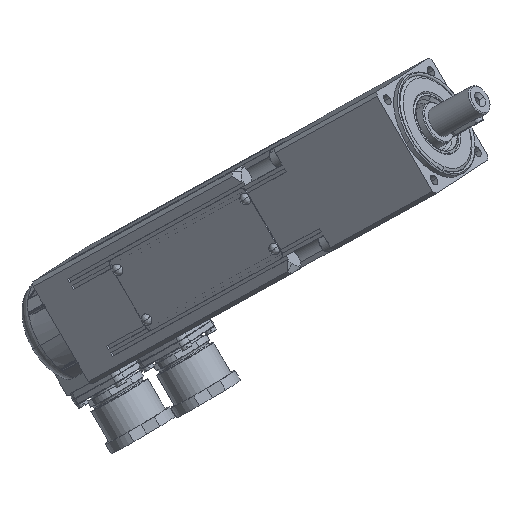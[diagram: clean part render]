
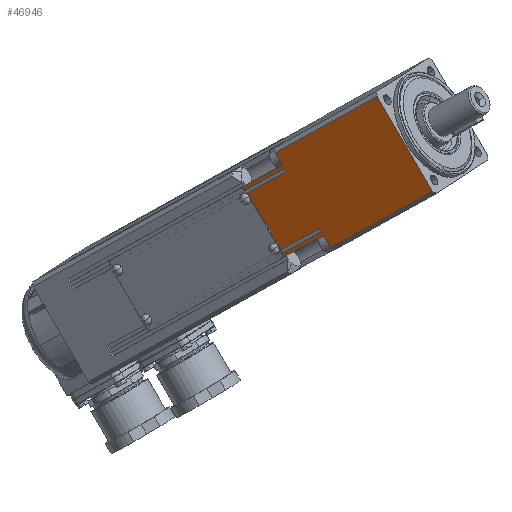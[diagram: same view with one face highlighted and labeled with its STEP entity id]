
A CAD part, front view. The second image highlights one B-rep face of the part: STEP entity #46946.
In plain terms, the highlighted planar face has unit normal (-0.468, -0.83, -0.304).
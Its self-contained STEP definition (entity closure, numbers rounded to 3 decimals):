
#12249=CARTESIAN_POINT('',(156.395,-270.97,431.372));
#12250=VERTEX_POINT('',#12249);
#12259=CARTESIAN_POINT('',(156.314,-271.291,432.371));
#12260=VERTEX_POINT('',#12259);
#12261=CARTESIAN_POINT('',(154.656,-270.228,432.025));
#12262=DIRECTION('',(0.468,0.829,0.304));
#12263=DIRECTION('',(0.869,-0.371,-0.327));
#12264=AXIS2_PLACEMENT_3D('',#12261,#12262,#12263);
#12265=CIRCLE('',#12264,2.);
#12266=EDGE_CURVE('',#12260,#12250,#12265,.T.);
#12302=CARTESIAN_POINT('',(141.391,-271.951,457.133));
#12303=VERTEX_POINT('',#12302);
#12327=CARTESIAN_POINT('',(142.23,-272.212,456.553));
#12328=VERTEX_POINT('',#12327);
#12336=CARTESIAN_POINT('',(141.075,-271.116,455.344));
#12337=DIRECTION('',(0.468,0.829,0.304));
#12338=DIRECTION('',(0.158,-0.418,0.895));
#12339=AXIS2_PLACEMENT_3D('',#12336,#12337,#12338);
#12340=CIRCLE('',#12339,2.0);
#12341=EDGE_CURVE('',#12303,#12328,#12340,.T.);
#46349=CARTESIAN_POINT('',(213.433,-312.219,456.02));
#46350=VERTEX_POINT('',#46349);
#46400=CARTESIAN_POINT('',(192.347,-313.598,492.224));
#46401=VERTEX_POINT('',#46400);
#46409=CARTESIAN_POINT('',(213.433,-312.219,456.02));
#46410=DIRECTION('',(-0.503,-0.033,0.864));
#46411=VECTOR('',#46410,41.92);
#46412=LINE('',#46409,#46411);
#46413=EDGE_CURVE('',#46350,#46401,#46412,.T.);
#46445=CARTESIAN_POINT('',(155.606,-271.376,433.692));
#46446=VERTEX_POINT('',#46445);
#46543=CARTESIAN_POINT('',(143.031,-272.198,455.284));
#46544=VERTEX_POINT('',#46543);
#46593=CARTESIAN_POINT('',(140.069,-271.181,457.071));
#46594=VERTEX_POINT('',#46593);
#46595=CARTESIAN_POINT('',(141.075,-271.116,455.344));
#46596=DIRECTION('',(0.468,0.829,0.304));
#46597=DIRECTION('',(0.158,-0.418,0.895));
#46598=AXIS2_PLACEMENT_3D('',#46595,#46596,#46597);
#46599=CIRCLE('',#46598,2.0);
#46600=EDGE_CURVE('',#46594,#12303,#46599,.T.);
#46619=CARTESIAN_POINT('',(155.662,-270.162,430.297));
#46620=VERTEX_POINT('',#46619);
#46627=CARTESIAN_POINT('',(154.656,-270.228,432.025));
#46628=DIRECTION('',(0.468,0.829,0.304));
#46629=DIRECTION('',(0.869,-0.371,-0.327));
#46630=AXIS2_PLACEMENT_3D('',#46627,#46628,#46629);
#46631=CIRCLE('',#46630,2.);
#46632=EDGE_CURVE('',#12250,#46620,#46631,.T.);
#46650=CARTESIAN_POINT('',(143.031,-272.198,455.284));
#46651=DIRECTION('',(0.503,0.033,-0.864));
#46652=VECTOR('',#46651,25.);
#46653=LINE('',#46650,#46652);
#46654=EDGE_CURVE('',#46544,#46446,#46653,.T.);
#46845=CARTESIAN_POINT('',(72.493,-221.597,425.924));
#46846=DIRECTION('',(-0.468,-0.829,-0.304));
#46847=DIRECTION('',(-0.726,0.558,-0.402));
#46848=AXIS2_PLACEMENT_3D('',#46845,#46846,#46847);
#46849=PLANE('',#46848);
#46850=ORIENTED_EDGE('',*,*,#46600,.T.);
#46851=ORIENTED_EDGE('',*,*,#12341,.T.);
#46852=CARTESIAN_POINT('',(156.986,-283.538,464.716));
#46853=VERTEX_POINT('',#46852);
#46854=CARTESIAN_POINT('',(142.23,-272.212,456.553));
#46855=DIRECTION('',(0.726,-0.558,0.402));
#46856=VECTOR('',#46855,20.314);
#46857=LINE('',#46854,#46856);
#46858=EDGE_CURVE('',#12328,#46853,#46857,.T.);
#46859=ORIENTED_EDGE('',*,*,#46858,.T.);
#46860=CARTESIAN_POINT('',(157.74,-283.489,463.42));
#46861=VERTEX_POINT('',#46860);
#46862=CARTESIAN_POINT('',(156.986,-283.538,464.716));
#46863=DIRECTION('',(0.503,0.033,-0.864));
#46864=VECTOR('',#46863,1.5);
#46865=LINE('',#46862,#46864);
#46866=EDGE_CURVE('',#46853,#46861,#46865,.T.);
#46867=ORIENTED_EDGE('',*,*,#46866,.T.);
#46868=CARTESIAN_POINT('',(157.74,-283.489,463.42));
#46869=DIRECTION('',(-0.726,0.558,-0.402));
#46870=VECTOR('',#46869,20.25);
#46871=LINE('',#46868,#46870);
#46872=EDGE_CURVE('',#46861,#46544,#46871,.T.);
#46873=ORIENTED_EDGE('',*,*,#46872,.T.);
#46874=ORIENTED_EDGE('',*,*,#46654,.T.);
#46875=CARTESIAN_POINT('',(170.315,-282.667,441.829));
#46876=VERTEX_POINT('',#46875);
#46877=CARTESIAN_POINT('',(155.606,-271.376,433.692));
#46878=DIRECTION('',(0.726,-0.558,0.402));
#46879=VECTOR('',#46878,20.25);
#46880=LINE('',#46877,#46879);
#46881=EDGE_CURVE('',#46446,#46876,#46880,.T.);
#46882=ORIENTED_EDGE('',*,*,#46881,.T.);
#46883=CARTESIAN_POINT('',(171.07,-282.617,440.533));
#46884=VERTEX_POINT('',#46883);
#46885=CARTESIAN_POINT('',(170.315,-282.667,441.829));
#46886=DIRECTION('',(0.503,0.033,-0.864));
#46887=VECTOR('',#46886,1.5);
#46888=LINE('',#46885,#46887);
#46889=EDGE_CURVE('',#46876,#46884,#46888,.T.);
#46890=ORIENTED_EDGE('',*,*,#46889,.T.);
#46891=CARTESIAN_POINT('',(171.07,-282.617,440.533));
#46892=DIRECTION('',(-0.726,0.558,-0.402));
#46893=VECTOR('',#46892,20.314);
#46894=LINE('',#46891,#46893);
#46895=EDGE_CURVE('',#46884,#12260,#46894,.T.);
#46896=ORIENTED_EDGE('',*,*,#46895,.T.);
#46897=ORIENTED_EDGE('',*,*,#12266,.T.);
#46898=ORIENTED_EDGE('',*,*,#46632,.T.);
#46899=CARTESIAN_POINT('',(171.824,-282.568,439.238));
#46900=VERTEX_POINT('',#46899);
#46901=CARTESIAN_POINT('',(155.662,-270.162,430.297));
#46902=DIRECTION('',(0.726,-0.558,0.402));
#46903=VECTOR('',#46902,22.25);
#46904=LINE('',#46901,#46903);
#46905=EDGE_CURVE('',#46620,#46900,#46904,.T.);
#46906=ORIENTED_EDGE('',*,*,#46905,.T.);
#46907=CARTESIAN_POINT('',(174.571,-282.389,434.522));
#46908=VERTEX_POINT('',#46907);
#46909=CARTESIAN_POINT('',(171.824,-282.568,439.238));
#46910=DIRECTION('',(0.503,0.033,-0.864));
#46911=VECTOR('',#46910,5.46);
#46912=LINE('',#46909,#46911);
#46913=EDGE_CURVE('',#46900,#46908,#46912,.T.);
#46914=ORIENTED_EDGE('',*,*,#46913,.T.);
#46915=CARTESIAN_POINT('',(174.571,-282.389,434.522));
#46916=DIRECTION('',(0.726,-0.558,0.402));
#46917=VECTOR('',#46916,53.5);
#46918=LINE('',#46915,#46917);
#46919=EDGE_CURVE('',#46908,#46350,#46918,.T.);
#46920=ORIENTED_EDGE('',*,*,#46919,.T.);
#46921=ORIENTED_EDGE('',*,*,#46413,.T.);
#46922=CARTESIAN_POINT('',(153.485,-283.767,470.727));
#46923=VERTEX_POINT('',#46922);
#46924=CARTESIAN_POINT('',(153.485,-283.767,470.727));
#46925=DIRECTION('',(0.726,-0.558,0.402));
#46926=VECTOR('',#46925,53.5);
#46927=LINE('',#46924,#46926);
#46928=EDGE_CURVE('',#46923,#46401,#46927,.T.);
#46929=ORIENTED_EDGE('',*,*,#46928,.F.);
#46930=CARTESIAN_POINT('',(156.231,-283.588,466.011));
#46931=VERTEX_POINT('',#46930);
#46932=CARTESIAN_POINT('',(153.485,-283.767,470.727));
#46933=DIRECTION('',(0.503,0.033,-0.864));
#46934=VECTOR('',#46933,5.46);
#46935=LINE('',#46932,#46934);
#46936=EDGE_CURVE('',#46923,#46931,#46935,.T.);
#46937=ORIENTED_EDGE('',*,*,#46936,.T.);
#46938=CARTESIAN_POINT('',(156.231,-283.588,466.011));
#46939=DIRECTION('',(-0.726,0.558,-0.402));
#46940=VECTOR('',#46939,22.25);
#46941=LINE('',#46938,#46940);
#46942=EDGE_CURVE('',#46931,#46594,#46941,.T.);
#46943=ORIENTED_EDGE('',*,*,#46942,.T.);
#46944=EDGE_LOOP('',(#46850,#46851,#46859,#46867,#46873,#46874,#46882,#46890,#46896,#46897,#46898,#46906,#46914,#46920,#46921,#46929,#46937,#46943));
#46945=FACE_OUTER_BOUND('',#46944,.T.);
#46946=ADVANCED_FACE('',(#46945),#46849,.T.);
